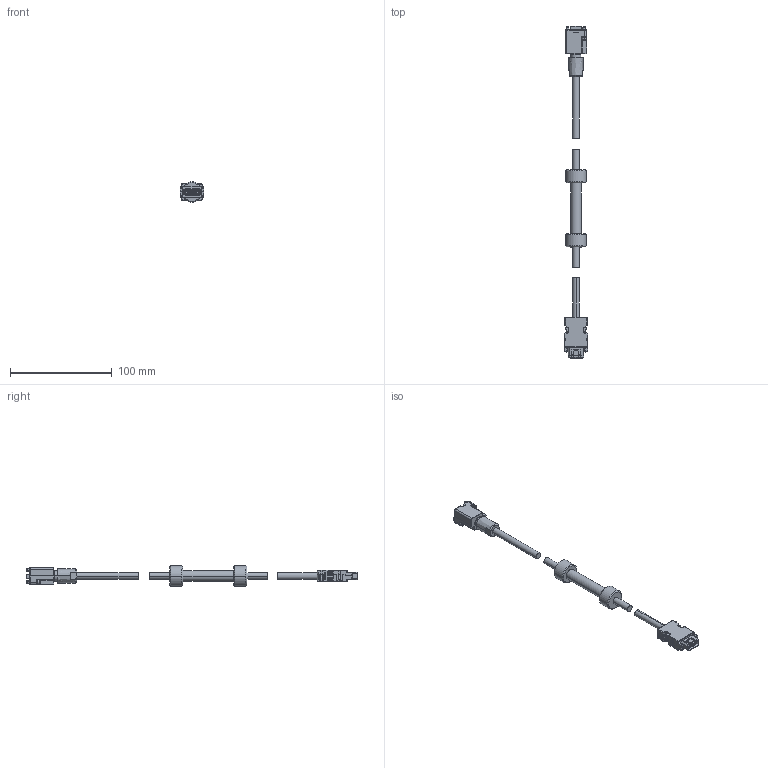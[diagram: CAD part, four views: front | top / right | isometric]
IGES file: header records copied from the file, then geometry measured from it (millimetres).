
Start section: Elysium IGES Interface
Global section: file name: 150HK:\20_商品設計\設計１課\個人\山室\05_作業中雑務\20181012_AT1100 コンジットケーブル　資料類\AT1100ケーブル\06AFX740_SignalCable_Conduit(Mitsubishi).igs; native system: Creo Elements/Direct Modeling 18.1B  29-Sep-2012; preprocessor: Creo Element/Direct IGES_3D V2.2; author: Unknown; organization: Unknown; date: 20181016.182020; units: millimetre
Bounding box: 22.7 x 325.99 x 20 mm (x, y, z)
Volume: 34924.1 mm3; surface area: 17068.2 mm2
Topology: 3 solids, 3 shells, 1054 faces, 2850 edges, 1792 vertices
Faces by surface type: bspline 1054
